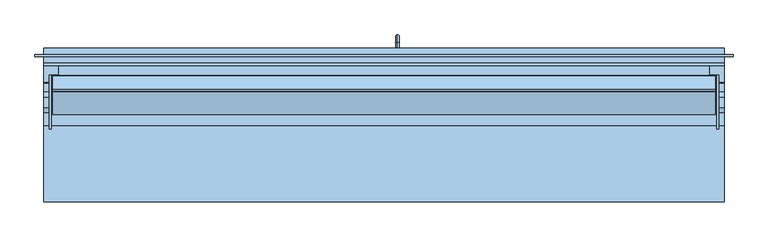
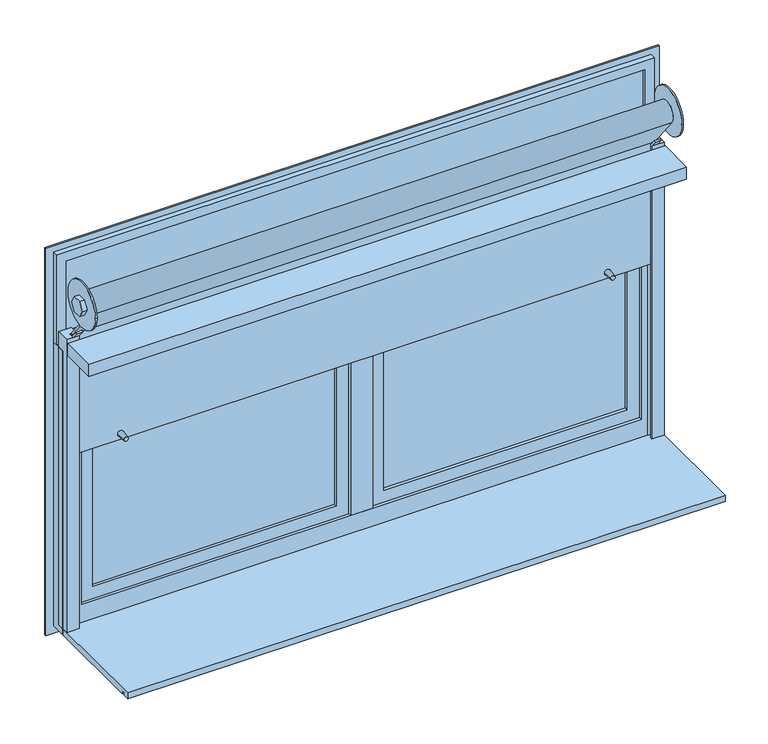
"""IFC4 building model written with IfcOpenShell, lengths in millimetres: window geometry, Ventana monoblock practicable, 2 hojas sin cajon para poner emparchado : CA-05. COCINA - DORMITORIOS NORTE."""

from ifc_helpers import new_model, si_unit, point, frame, frame_2d, origin, place, context, project, spatial, polyline, circle_curve, ellipse_curve, trimmed, segment, composite_curve, outline, extrude, faceted_brep, source, transform, mapped, element, save
from ifc_brep_helpers import plane_surface, cylinder_surface, revolved_surface, advanced_brep


def window_7e7f52a2(model_context):
    return source(origin(), model_context, "Body", "SolidModel", [
        extrude(outline(polyline([(930.0, 120.0), (-930.0, 120.0), (-930.0, 135.0), (930.0, 135.0), (930.0, 120.0)])), frame((0.0, 0.0, 1865.0), z_axis=(0.0, 0.0, 1.0), x_axis=(1.0, 0.0, 0.0)), (0.0, 0.0, 1.0), 270.0),
        faceted_brep([(-945.0, 110.0, 2150.0), (945.0, 110.0, 2150.0), (945.0, 150.0, 2150.0), (-945.0, 150.0, 2150.0), (-915.0, 120.0, 2120.0), (915.0, 120.0, 2120.0), (915.0, 110.0, 2120.0), (-915.0, 110.0, 2120.0), (-930.0, 150.0, 2135.0), (930.0, 150.0, 2135.0), (930.0, 120.0, 2135.0), (-930.0, 120.0, 2135.0), (945.0, 110.0, 1850.0), (945.0, 150.0, 1850.0), (915.0, 120.0, 1880.0), (915.0, 110.0, 1880.0), (930.0, 150.0, 1865.0), (930.0, 120.0, 1865.0), (-945.0, 110.0, 1850.0), (-945.0, 150.0, 1850.0), (-915.0, 120.0, 1880.0), (-915.0, 110.0, 1880.0), (-930.0, 150.0, 1865.0), (-930.0, 120.0, 1865.0)], [[[0, 1, 2, 3]], [[4, 5, 6, 7]], [[8, 9, 10, 11]], [[1, 12, 13, 2]], [[5, 14, 15, 6]], [[9, 16, 17, 10]], [[12, 18, 19, 13]], [[14, 20, 21, 15]], [[16, 22, 23, 17]], [[18, 0, 3, 19]], [[1, 0, 18, 12], [7, 6, 15, 21]], [[20, 4, 7, 21]], [[11, 10, 17, 23], [5, 4, 20, 14]], [[22, 8, 11, 23]], [[3, 2, 13, 19], [9, 8, 22, 16]]]),
        advanced_brep(
        [(-945.0, 28.8675135, 2045.0), (-945.0, 14.4337567, 2020.0), (-945.0, -14.4337567, 2020.0), (-945.0, -28.8675135, 2045.0), (-945.0, -14.4337567, 2070.0), (-945.0, 14.4337567, 2070.0), (945.0, 28.8675135, 2045.0), (945.0, 14.4337567, 2070.0), (945.0, -14.4337567, 2070.0), (945.0, -28.8675135, 2045.0), (945.0, -14.4337567, 2020.0), (945.0, 14.4337567, 2020.0), (930.0, 28.8675135, 2045.0), (930.0, 14.4337567, 2070.0), (925.0, 28.8675135, 2045.0), (-925.0, 28.8675135, 2045.0), (-925.0, 14.4337567, 2070.0), (925.0, 14.4337567, 2070.0), (-930.0, 14.4337567, 2070.0), (-930.0, 28.8675135, 2045.0), (930.0, -14.4337567, 2070.0), (-925.0, -14.4337567, 2070.0), (925.0, -14.4337567, 2070.0), (-930.0, -14.4337567, 2070.0), (930.0, -28.8675135, 2045.0), (-925.0, -28.8675135, 2045.0), (925.0, -28.8675135, 2045.0), (-930.0, -28.8675135, 2045.0), (930.0, -14.4337567, 2020.0), (-925.0, -14.4337567, 2020.0), (925.0, -14.4337567, 2020.0), (-930.0, -14.4337567, 2020.0), (930.0, 14.4337567, 2020.0), (-925.0, 14.4337567, 2020.0), (925.0, 14.4337567, 2020.0), (-930.0, 14.4337567, 2020.0), (925.0, 75.0, 2045.0), (925.0, -75.0, 2045.0), (930.0, 75.0, 2045.0), (930.0, -75.0, 2045.0), (-930.0, 75.0, 2045.0), (-930.0, -75.0, 2045.0), (-925.0, 75.0, 2045.0), (-925.0, -75.0, 2045.0)],
        [
            (0, 1),
            (1, 2),
            (2, 3),
            (3, 4),
            (4, 5),
            (5, 0),
            (6, 7),
            (7, 8),
            (8, 9),
            (9, 10),
            (10, 11),
            (11, 6),
            (6, 12),
            (12, 13),
            (13, 7),
            (14, 15),
            (15, 16),
            (16, 17),
            (17, 14),
            (5, 18),
            (18, 19),
            (19, 0),
            (13, 20),
            (20, 8),
            (16, 21),
            (21, 22),
            (22, 17),
            (4, 23),
            (23, 18),
            (20, 24),
            (24, 9),
            (21, 25),
            (25, 26),
            (26, 22),
            (3, 27),
            (27, 23),
            (24, 28),
            (28, 10),
            (25, 29),
            (29, 30),
            (30, 26),
            (2, 31),
            (31, 27),
            (28, 32),
            (32, 11),
            (29, 33),
            (33, 34),
            (34, 30),
            (1, 35),
            (35, 31),
            (19, 35),
            (32, 12),
            (33, 15),
            (14, 34),
            (36, 37, circle_curve(frame((925.0, 0.0, 2045.0), z_axis=(-1.0, 0.0, 0.0), x_axis=(0.0, -1.0, 0.0)), 75.0)),
            (37, 36, circle_curve(frame((925.0, 0.0, 2045.0), z_axis=(-1.0, 0.0, 0.0), x_axis=(0.0, -1.0, 0.0)), 75.0)),
            (38, 39, circle_curve(frame((930.0, 0.0, 2045.0), z_axis=(1.0, 0.0, 0.0), x_axis=(0.0, -1.0, 0.0)), 75.0)),
            (39, 38, circle_curve(frame((930.0, 0.0, 2045.0), z_axis=(1.0, 0.0, 0.0), x_axis=(0.0, -1.0, 0.0)), 75.0)),
            (36, 38),
            (39, 37),
            (40, 41, circle_curve(frame((-930.0, 0.0, 2045.0), z_axis=(-1.0, 0.0, 0.0), x_axis=(0.0, -1.0, 0.0)), 75.0)),
            (41, 40, circle_curve(frame((-930.0, 0.0, 2045.0), z_axis=(-1.0, 0.0, 0.0), x_axis=(0.0, -1.0, 0.0)), 75.0)),
            (42, 43, circle_curve(frame((-925.0, 0.0, 2045.0), z_axis=(1.0, 0.0, 0.0), x_axis=(0.0, -1.0, 0.0)), 75.0)),
            (43, 42, circle_curve(frame((-925.0, 0.0, 2045.0), z_axis=(1.0, 0.0, 0.0), x_axis=(0.0, -1.0, 0.0)), 75.0)),
            (40, 42),
            (43, 41),
        ],
        [
            plane_surface(frame((-945.0, 28.8675135, 2045.0), z_axis=(-1.0, 0.0, 0.0), x_axis=(0.0, -0.4999999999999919, 0.8660254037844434))),
            plane_surface(frame((945.0, 28.8675135, 2045.0), z_axis=(1.0, 0.0, 0.0), x_axis=(0.0, 0.4999999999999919, -0.8660254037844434))),
            plane_surface(frame((-945.0, 28.8675135, 2045.0), z_axis=(0.0, 0.8660254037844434, 0.4999999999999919), x_axis=(1.0, 0.0, 0.0))),
            plane_surface(frame((-945.0, 14.4337567, 2070.0), z_axis=(0.0, 0.0, 1.0), x_axis=(1.0, 0.0, 0.0))),
            plane_surface(frame((-945.0, -14.4337567, 2070.0), z_axis=(0.0, -0.8660254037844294, 0.5000000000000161), x_axis=(1.0, 0.0, 0.0))),
            plane_surface(frame((-945.0, -28.8675135, 2045.0), z_axis=(0.0, -0.8660254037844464, -0.49999999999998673), x_axis=(1.0, 0.0, 0.0))),
            plane_surface(frame((-945.0, -14.4337567, 2020.0), z_axis=(0.0, 0.0, -1.0), x_axis=(1.0, 0.0, 0.0))),
            plane_surface(frame((-945.0, 14.4337567, 2020.0), z_axis=(0.0, 0.8660254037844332, -0.5000000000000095), x_axis=(1.0, 0.0, 0.0))),
            plane_surface(frame((925.0, -75.0, 2045.0), z_axis=(-1.0, 0.0, 0.0), x_axis=(0.0, 0.0, -1.0))),
            plane_surface(frame((930.0, -75.0, 2045.0), z_axis=(1.0, 0.0, 0.0), x_axis=(0.0, 0.0, 1.0))),
            cylinder_surface(frame((925.0, 0.0, 2045.0), z_axis=(1.0, 0.0, 0.0), x_axis=(0.0, -1.0, 0.0)), 75.0),
            plane_surface(frame((-930.0, -75.0, 2045.0), z_axis=(-1.0, 0.0, 0.0), x_axis=(0.0, 0.0, -1.0))),
            plane_surface(frame((-925.0, -75.0, 2045.0), z_axis=(1.0, 0.0, 0.0), x_axis=(0.0, 0.0, 1.0))),
            cylinder_surface(frame((-930.0, 0.0, 2045.0), z_axis=(1.0, 0.0, 0.0), x_axis=(0.0, -1.0, 0.0)), 75.0),
        ],
        [
            (0, [[1, 2, 3, 4, 5, 6]]),
            (1, [[7, 8, 9, 10, 11, 12]]),
            (2, [[13, 14, 15, -7]]),
            (2, [[16, 17, 18, 19]]),
            (2, [[20, 21, 22, -6]]),
            (3, [[-15, 23, 24, -8]]),
            (3, [[-18, 25, 26, 27]]),
            (3, [[28, 29, -20, -5]]),
            (4, [[-24, 30, 31, -9]]),
            (4, [[-26, 32, 33, 34]]),
            (4, [[35, 36, -28, -4]]),
            (5, [[-31, 37, 38, -10]]),
            (5, [[-33, 39, 40, 41]]),
            (5, [[42, 43, -35, -3]]),
            (6, [[-38, 44, 45, -11]]),
            (6, [[-40, 46, 47, 48]]),
            (6, [[49, 50, -42, -2]]),
            (7, [[-22, 51, -49, -1]]),
            (7, [[-45, 52, -13, -12]]),
            (7, [[-47, 53, -16, 54]]),
            (8, [[55, 56], [-27, -34, -41, -48, -54, -19]]),
            (9, [[57, 58], [-52, -44, -37, -30, -23, -14]]),
            (10, [[59, -58, 60, -55]]),
            (10, [[-60, -57, -59, -56]]),
            (11, [[61, 62], [-29, -36, -43, -50, -51, -21]]),
            (12, [[63, 64], [-53, -46, -39, -32, -25, -17]]),
            (13, [[65, -64, 66, -61]]),
            (13, [[-66, -63, -65, -62]]),
        ],
    ),
        extrude(outline(composite_curve([segment(polyline([(-22.8709706, 2027.1697251), (72.0, 1905.4783214), (72.0, 1500.0), (66.0, 1500.0), (66.0, 1903.4158643), (-27.6028956, 2023.4807027)]), True, "CONTINUOUS"), segment(trimmed(circle_curve(frame_2d((0.0, 2045.0)), 35.0), [point((-27.6028956, 2023.4807027))], [point((0.0, 2010.0))], False, "CARTESIAN"), True, "CONTINUOUS"), segment(polyline([(0.0, 2010.0), (0.0, 2016.0)]), True, "CONTINUOUS"), segment(trimmed(circle_curve(frame_2d((0.0, 2045.0)), 29.0), [point((0.0, 2016.0))], [point((-22.8709706, 2027.1697251))], True, "CARTESIAN"), True, "CONTINUOUS")], self_intersect=False)), frame((-920.0, 0.0, 0.0), z_axis=(1.0, 0.0, 0.0), x_axis=(0.0, 1.0, 0.0)), (0.0, 0.0, 1.0), 1840.0),
        extrude(outline(polyline([(-945.0, 52.0), (945.0, 52.0), (945.0, -65.0), (-945.0, -65.0), (-945.0, 52.0)])), frame((0.0, 0.0, 1850.0), z_axis=(0.0, 0.0, 1.0), x_axis=(1.0, 0.0, 0.0)), (0.0, 0.0, 1.0), 40.0),
        extrude(outline(polyline([(905.0, 75.0), (-905.0, 75.0), (-905.0, 100.0), (905.0, 100.0), (905.0, 75.0)])), frame((0.0, 0.0, 1840.0), z_axis=(0.0, 0.0, 1.0), x_axis=(1.0, 0.0, 0.0)), (0.0, 0.0, 1.0), 10.0),
        faceted_brep([(-925.0, 77.0, 920.0), (-925.0, 61.0, 920.0), (-905.0, 61.0, 920.0), (-905.0, 56.0, 920.0), (-945.0, 56.0, 920.0), (-945.0, 100.0, 920.0), (-905.0, 100.0, 920.0), (-905.0, 77.0, 920.0), (-925.0, 77.0, 1900.0), (-905.0, 77.0, 1900.0), (-905.0, 100.0, 1900.0), (-945.0, 100.0, 1900.0), (-945.0, 56.0, 1900.0), (-905.0, 56.0, 1900.0), (-925.0, 56.0, 1900.0), (-905.0, 61.0, 1901.7190332), (-905.0, 41.4951086, 1926.7321553), (-905.0, 37.5521886, 1923.65752), (-925.0, 61.0, 1900.0), (-925.0, 61.0, 1901.7190332), (-925.0, 37.5521886, 1923.65752), (-925.0, 41.4951086, 1926.7321553)], [[[0, 1, 2, 3, 4, 5, 6, 7]], [[8, 0, 7, 9]], [[9, 7, 6, 10]], [[10, 6, 5, 11]], [[11, 5, 4, 12]], [[12, 4, 3, 13, 14]], [[2, 15, 16, 17, 13, 3]], [[1, 18, 19, 15, 2]], [[8, 18, 1, 0]], [[14, 18, 8, 9, 10, 11, 12]], [[19, 18, 14, 20, 21]], [[16, 21, 20, 17]], [[15, 19, 21, 16]], [[17, 20, 14, 13]]]),
        faceted_brep([(945.0, 56.0, 920.0), (905.0, 56.0, 920.0), (905.0, 61.0, 920.0), (925.0, 61.0, 920.0), (925.0, 77.0, 920.0), (905.0, 77.0, 920.0), (905.0, 100.0, 920.0), (945.0, 100.0, 920.0), (945.0, 56.0, 1900.0), (945.0, 100.0, 1900.0), (905.0, 100.0, 1900.0), (905.0, 77.0, 1900.0), (925.0, 77.0, 1900.0), (925.0, 61.0, 1900.0), (905.0, 61.0, 1901.7190332), (925.0, 61.0, 1901.7190332), (905.0, 56.0, 1900.0), (905.0, 37.5521886, 1923.65752), (905.0, 41.4951086, 1926.7321553), (925.0, 56.0, 1900.0), (925.0, 41.4951086, 1926.7321553), (925.0, 37.5521886, 1923.65752)], [[[0, 1, 2, 3, 4, 5, 6, 7]], [[8, 0, 7, 9]], [[9, 7, 6, 10]], [[10, 6, 5, 11]], [[11, 5, 4, 12]], [[4, 3, 13, 12]], [[2, 14, 15, 13, 3]], [[1, 16, 17, 18, 14, 2]], [[19, 16, 1, 0, 8]], [[12, 13, 19, 8, 9, 10, 11]], [[19, 13, 15, 20, 21]], [[20, 18, 17, 21]], [[15, 14, 18, 20]], [[21, 17, 16, 19]]]),
        advanced_brep(
        [(-763.0, 34.0, 1520.0), (-777.0, 34.0, 1520.0), (-760.5, 66.0, 1520.0), (-779.5, 66.0, 1520.0)],
        [
            (0, 1, circle_curve(frame((-770.0, 34.0, 1520.0), z_axis=(0.0, -1.0, 0.0), x_axis=(-1.0, 0.0, 0.0)), 7.0)),
            (1, 0, circle_curve(frame((-770.0, 34.0, 1520.0), z_axis=(0.0, -1.0, 0.0), x_axis=(1.0, 0.0, 0.0)), 7.0)),
            (2, 3, circle_curve(frame((-770.0, 66.0, 1520.0), z_axis=(0.0, 1.0, 0.0), x_axis=(1.0, 0.0, 0.0)), 9.5)),
            (3, 2, circle_curve(frame((-770.0, 66.0, 1520.0), z_axis=(0.0, 1.0, 0.0), x_axis=(-1.0, 0.0, 0.0)), 9.5)),
            (2, 0),
            (1, 3),
        ],
        [
            plane_surface(frame((-770.0, 34.0, 1520.0), z_axis=(0.0, -1.0, 0.0), x_axis=(0.0, 0.0, 1.0))),
            plane_surface(frame((-770.0, 66.0, 1520.0), z_axis=(0.0, 1.0, 0.0), x_axis=(0.0, 0.0, 1.0))),
            revolved_surface(polyline([(-763.0, 33.99999999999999, 1520.0), (-760.5, 66.0, 1520.0)]), (-770.0, -55.6, 1520.0), (0.0, 1.0, 0.0)),
            revolved_surface(polyline([(-777.0, 33.99999999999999, 1520.0), (-779.5, 66.0, 1520.0)]), (-770.0, -55.6, 1520.0), (0.0, 1.0, 0.0)),
        ],
        [
            (0, [[1, 2]]),
            (1, [[3, 4]]),
            (2, [[5, -2, 6, -3]]),
            (3, [[-6, -1, -5, -4]]),
        ],
    ),
        advanced_brep(
        [(763.0, 34.0, 1520.0), (777.0, 34.0, 1520.0), (760.5, 66.0, 1520.0), (779.5, 66.0, 1520.0)],
        [
            (0, 1, circle_curve(frame((770.0, 34.0, 1520.0), z_axis=(0.0, -1.0, 0.0), x_axis=(1.0, 0.0, 0.0)), 7.0)),
            (1, 0, circle_curve(frame((770.0, 34.0, 1520.0), z_axis=(0.0, -1.0, 0.0), x_axis=(-1.0, 0.0, 0.0)), 7.0)),
            (2, 3, circle_curve(frame((770.0, 66.0, 1520.0), z_axis=(0.0, 1.0, 0.0), x_axis=(-1.0, 0.0, 0.0)), 9.5)),
            (3, 2, circle_curve(frame((770.0, 66.0, 1520.0), z_axis=(0.0, 1.0, 0.0), x_axis=(1.0, 0.0, 0.0)), 9.5)),
            (3, 1),
            (0, 2),
        ],
        [
            plane_surface(frame((770.0, 34.0, 1520.0), z_axis=(0.0, -1.0, 0.0), x_axis=(0.0, 0.0, -1.0))),
            plane_surface(frame((770.0, 66.0, 1520.0), z_axis=(0.0, 1.0, 0.0), x_axis=(0.0, 0.0, -1.0))),
            revolved_surface(polyline([(777.0, 33.99999999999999, 1520.0), (779.5, 66.0, 1520.0)]), (770.0, -55.6, 1520.0), (0.0, 1.0, 0.0)),
            revolved_surface(polyline([(763.0, 33.99999999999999, 1520.0), (760.5, 66.0, 1520.0)]), (770.0, -55.6, 1520.0), (0.0, 1.0, 0.0)),
        ],
        [
            (0, [[1, 2]]),
            (1, [[3, 4]]),
            (2, [[5, -1, 6, -4]]),
            (3, [[-6, -2, -5, -3]]),
        ],
    ),
        extrude(outline(polyline([(-277.5, 920.0), (77.5, 920.0), (77.5, 900.0), (-247.5, 900.0), (-247.5, 910.0), (-257.5, 910.0), (-257.5, 900.0), (-277.5, 900.0), (-277.5, 920.0)])), frame((-945.0, 0.0, 0.0), z_axis=(1.0, 0.0, 0.0), x_axis=(0.0, 1.0, 0.0)), (0.0, 0.0, 1.0), 1890.0),
        advanced_brep(
        [(37.5, 147.5, 1390.0), (37.5, 147.5, 1380.0), (37.5, 166.5, 1380.0), (37.5, 166.5, 1390.0), (37.5, 177.5, 1369.0), (37.5, 187.5, 1369.0), (37.5, 187.5, 1290.0), (37.5, 177.5, 1290.0), (52.5, 147.5, 1415.0), (52.5, 147.5, 1355.0), (22.5, 147.5, 1355.0), (22.5, 147.5, 1415.0), (52.5, 137.5, 1415.0), (22.5, 137.5, 1415.0), (22.5, 137.5, 1355.0), (52.5, 137.5, 1355.0)],
        [
            (0, 1, circle_curve(frame((37.5, 147.5, 1385.0), z_axis=(0.0, 1.0, 0.0), x_axis=(0.0, 0.0, -1.0)), 5.0)),
            (1, 2),
            (2, 3, circle_curve(frame((37.5, 166.5, 1385.0), z_axis=(0.0, -1.0, 0.0), x_axis=(0.0, 0.0, -1.0)), 5.0)),
            (3, 0),
            (3, 2, circle_curve(frame((37.5, 166.5, 1385.0), z_axis=(0.0, -1.0, 0.0), x_axis=(0.0, 0.0, -1.0)), 5.0)),
            (1, 0, circle_curve(frame((37.5, 147.5, 1385.0), z_axis=(0.0, 1.0, 0.0), x_axis=(0.0, 0.0, -1.0)), 5.0)),
            (2, 4, circle_curve(frame((37.5, 166.5, 1369.0), z_axis=(-1.0, 0.0, 0.0), x_axis=(0.0, 0.0, 1.0)), 11.0)),
            (4, 5, circle_curve(frame((37.5, 182.5, 1369.0), z_axis=(0.0, 0.0, 1.0), x_axis=(0.0, -1.0, 0.0)), 5.0)),
            (5, 3, circle_curve(frame((37.5, 166.5, 1369.0), z_axis=(1.0, 0.0, 0.0), x_axis=(0.0, 0.0, 1.0)), 21.0)),
            (5, 4, circle_curve(frame((37.5, 182.5, 1369.0), z_axis=(0.0, 0.0, 1.0), x_axis=(0.0, -1.0, 0.0)), 5.0)),
            (6, 7, circle_curve(frame((37.5, 182.5, 1290.0), z_axis=(0.0, 0.0, -1.0), x_axis=(0.0, -1.0, 0.0)), 5.0)),
            (7, 6, circle_curve(frame((37.5, 182.5, 1290.0), z_axis=(0.0, 0.0, -1.0), x_axis=(0.0, -1.0, 0.0)), 5.0)),
            (4, 7),
            (6, 5),
            (8, 9),
            (9, 10),
            (10, 11),
            (11, 8),
            (12, 13),
            (13, 14),
            (14, 15),
            (15, 12),
            (11, 13),
            (12, 8),
            (10, 14),
            (9, 15),
        ],
        [
            cylinder_surface(frame((37.5, 147.5, 1385.0), z_axis=(0.0, -1.0, 0.0), x_axis=(0.0, 0.0, -1.0)), 5.0),
            revolved_surface(trimmed(ellipse_curve(frame((37.5, 166.5, 1385.0), z_axis=(0.0, 1.0, 0.0), x_axis=(0.0, 0.0, -1.0)), 5.0, 5.0), [point((37.5, 166.5, 1390.0))], [point((37.5, 166.5, 1380.0))], True, "CARTESIAN"), (37.5, 166.5, 1369.0), (1.0, 0.0, 0.0)),
            revolved_surface(trimmed(ellipse_curve(frame((37.5, 166.5, 1385.0), z_axis=(0.0, 1.0, 0.0), x_axis=(0.0, 0.0, -1.0)), 5.0, 5.0), [point((37.5, 166.5, 1380.0))], [point((37.5, 166.5, 1390.0))], True, "CARTESIAN"), (37.5, 166.5, 1369.0), (1.0, 0.0, 0.0)),
            plane_surface(frame((37.5, 182.5, 1290.0), z_axis=(0.0, 0.0, -1.0), x_axis=(1.0, 0.0, 0.0))),
            cylinder_surface(frame((37.5, 182.5, 1369.0), z_axis=(0.0, 0.0, 1.0), x_axis=(0.0, -1.0, 0.0)), 5.0),
            plane_surface(frame((22.5, 147.5, 1415.0), z_axis=(0.0, 1.0, 0.0), x_axis=(-1.0, 0.0, 0.0))),
            plane_surface(frame((22.5, 137.5, 1415.0), z_axis=(0.0, -1.0, 0.0), x_axis=(1.0, 0.0, 0.0))),
            plane_surface(frame((52.5, 147.5, 1415.0), z_axis=(0.0, 0.0, 1.0), x_axis=(0.0, -1.0, 0.0))),
            plane_surface(frame((22.5, 147.5, 1415.0), z_axis=(-1.0, 0.0, 0.0), x_axis=(0.0, -1.0, 0.0))),
            plane_surface(frame((22.5, 147.5, 1355.0), z_axis=(0.0, 0.0, -1.0), x_axis=(0.0, -1.0, 0.0))),
            plane_surface(frame((52.5, 147.5, 1355.0), z_axis=(1.0, 0.0, 0.0), x_axis=(0.0, -1.0, 0.0))),
        ],
        [
            (0, [[1, 2, 3, 4]]),
            (0, [[5, -2, 6, -4]]),
            (1, [[7, 8, 9, -3]]),
            (2, [[-9, 10, -7, -5]]),
            (3, [[11, 12]]),
            (4, [[13, -11, 14, -8]]),
            (4, [[-14, -12, -13, -10]]),
            (5, [[15, 16, 17, 18], [-6, -1]]),
            (6, [[19, 20, 21, 22]]),
            (7, [[23, -19, 24, -18]]),
            (8, [[25, -20, -23, -17]]),
            (9, [[26, -21, -25, -16]]),
            (10, [[-24, -22, -26, -15]]),
        ],
    ),
        faceted_brep([(945.0, 77.5, 1850.0), (945.0, 77.5, 900.0), (945.0, 127.5, 900.0), (945.0, 127.5, 1850.0), (-945.0, 127.5, 900.0), (-945.0, 127.5, 1850.0), (910.0, 127.5, 1815.0), (-910.0, 127.5, 1815.0), (-910.0, 127.5, 955.0), (910.0, 127.5, 955.0), (-945.0, 77.5, 900.0), (-945.0, 77.5, 1850.0), (885.0, 77.5, 980.0), (-885.0, 77.5, 980.0), (-885.0, 77.5, 1790.0), (885.0, 77.5, 1790.0), (885.0, 87.5, 1790.0), (885.0, 87.5, 980.0), (-885.0, 87.5, 980.0), (910.0, 87.5, 955.0), (-910.0, 87.5, 955.0), (-910.0, 87.5, 1815.0), (910.0, 87.5, 1815.0), (-885.0, 87.5, 1790.0)], [[[0, 1, 2, 3]], [[2, 4, 5, 3], [6, 7, 8, 9]], [[1, 10, 4, 2]], [[0, 11, 10, 1], [12, 13, 14, 15]], [[16, 17, 12, 15]], [[17, 18, 13, 12]], [[19, 20, 21, 22], [16, 23, 18, 17]], [[6, 9, 19, 22]], [[9, 8, 20, 19]], [[18, 23, 14, 13]], [[8, 7, 21, 20]], [[5, 4, 10, 11]], [[3, 5, 11, 0]], [[15, 14, 23, 16]], [[22, 21, 7, 6]]]),
        faceted_brep([(-25.0, 87.5, 980.0), (10.0, 87.5, 980.0), (35.0, 87.5, 980.0), (35.0, 77.5, 980.0), (-35.0, 77.5, 980.0), (-35.0, 87.5, 980.0), (-35.0, 87.5, 1790.0), (-25.0, 87.5, 1790.0), (-35.0, 77.5, 1790.0), (35.0, 77.5, 1790.0), (35.0, 87.5, 1790.0), (10.0, 87.5, 1790.0), (-25.0, 87.5, 955.0), (10.0, 87.5, 955.0), (-62.5, 87.5, 1790.0), (-35.0, 87.5, 1790.0), (10.0, 87.5, 1815.0), (-62.5, 87.5, 1815.0), (-25.0, 127.5, 955.0), (-25.0, 127.5, 1790.0), (10.0, 127.5, 1815.0), (10.0, 127.5, 955.0), (-62.5, 127.5, 1790.0), (-62.5, 127.5, 1815.0)], [[[0, 1, 2, 3, 4, 5]], [[5, 6, 7, 0]], [[4, 8, 6, 5]], [[3, 9, 8, 4]], [[2, 10, 9, 3]], [[1, 11, 10, 2]], [[1, 0, 12, 13]], [[14, 15, 7, 11, 16, 17]], [[18, 12, 0, 7, 19]], [[20, 21, 18, 19, 22, 23]], [[21, 13, 12, 18]], [[20, 16, 11, 1, 13, 21]], [[11, 7, 6, 8, 9, 10]], [[23, 17, 16, 20]], [[22, 14, 17, 23]], [[22, 19, 7, 15, 14]]]),
        extrude(outline(polyline([(-60.0, 97.5), (-860.0, 97.5), (-860.0, 111.5), (-60.0, 111.5), (-60.0, 97.5)])), frame((0.0, 0.0, 1005.0), z_axis=(0.0, 0.0, 1.0), x_axis=(1.0, 0.0, 0.0)), (0.0, 0.0, 1.0), 760.0),
        extrude(outline(polyline([(860.0, 97.5), (60.0, 97.5), (60.0, 111.5), (860.0, 111.5), (860.0, 97.5)])), frame((0.0, 0.0, 1005.0), z_axis=(0.0, 0.0, 1.0), x_axis=(1.0, 0.0, 0.0)), (0.0, 0.0, 1.0), 760.0),
        faceted_brep([(-75.0, 97.5, 1750.0), (-75.0, 97.5, 1020.0), (-75.0, 87.5, 1020.0), (-75.0, 87.5, 1750.0), (-25.0, 87.5, 1800.0), (-895.0, 87.5, 1800.0), (-895.0, 87.5, 970.0), (-25.0, 87.5, 970.0), (-845.0, 87.5, 1750.0), (-845.0, 87.5, 1020.0), (-845.0, 97.5, 1020.0), (-870.0, 97.5, 1775.0), (-50.0, 97.5, 1775.0), (-50.0, 97.5, 995.0), (-870.0, 97.5, 995.0), (-845.0, 97.5, 1750.0), (-50.0, 137.5, 1775.0), (-50.0, 137.5, 995.0), (-870.0, 137.5, 995.0), (-920.0, 137.5, 1825.0), (0.0, 137.5, 1825.0), (0.0, 137.5, 945.0), (-920.0, 137.5, 945.0), (-870.0, 137.5, 1775.0), (0.0, 127.5, 1825.0), (0.0, 127.5, 945.0), (-920.0, 127.5, 945.0), (-920.0, 127.5, 1825.0), (-895.0, 127.5, 1800.0), (-25.0, 127.5, 1800.0), (-25.0, 127.5, 970.0), (-895.0, 127.5, 970.0)], [[[0, 1, 2, 3]], [[4, 5, 6, 7], [8, 3, 2, 9]], [[1, 10, 9, 2]], [[11, 12, 13, 14], [0, 15, 10, 1]], [[16, 17, 13, 12]], [[17, 18, 14, 13]], [[19, 20, 21, 22], [16, 23, 18, 17]], [[24, 25, 21, 20]], [[25, 26, 22, 21]], [[24, 27, 26, 25], [28, 29, 30, 31]], [[4, 7, 30, 29]], [[7, 6, 31, 30]], [[10, 15, 8, 9]], [[18, 23, 11, 14]], [[26, 27, 19, 22]], [[6, 5, 28, 31]], [[15, 0, 3, 8]], [[23, 16, 12, 11]], [[27, 24, 20, 19]], [[5, 4, 29, 28]]]),
        extrude(outline(polyline([(1775.0, -50.0), (1775.0, -870.0), (995.0, -870.0), (995.0, -50.0), (1775.0, -50.0)]), holes=[polyline([(1750.0, -845.0), (1750.0, -75.0), (1020.0, -75.0), (1020.0, -845.0), (1750.0, -845.0)])]), frame((0.0, 111.5, 0.0), z_axis=(0.0, 1.0, 0.0), x_axis=(0.0, 0.0, 1.0)), (0.0, 0.0, 1.0), 26.0),
        extrude(outline(polyline([(1775.0, 870.0), (1775.0, 50.0), (995.0, 50.0), (995.0, 870.0), (1775.0, 870.0)]), holes=[polyline([(1750.0, 75.0), (1750.0, 845.0), (1020.0, 845.0), (1020.0, 75.0), (1750.0, 75.0)])]), frame((0.0, 111.5, 0.0), z_axis=(0.0, 1.0, 0.0), x_axis=(0.0, 0.0, 1.0)), (0.0, 0.0, 1.0), 26.0),
        faceted_brep([(25.0, 127.5, 1800.0), (25.0, 127.5, 970.0), (25.0, 87.5, 970.0), (25.0, 87.5, 1800.0), (895.0, 87.5, 1800.0), (895.0, 87.5, 970.0), (75.0, 87.5, 1750.0), (845.0, 87.5, 1750.0), (845.0, 87.5, 1020.0), (75.0, 87.5, 1020.0), (895.0, 127.5, 970.0), (920.0, 127.5, 1825.0), (0.0, 127.5, 1825.0), (0.0, 127.5, 945.0), (920.0, 127.5, 945.0), (895.0, 127.5, 1800.0), (0.0, 137.5, 1825.0), (0.0, 137.5, 945.0), (920.0, 137.5, 945.0), (920.0, 137.5, 1825.0), (870.0, 137.5, 1775.0), (50.0, 137.5, 1775.0), (50.0, 137.5, 995.0), (870.0, 137.5, 995.0), (75.0, 97.5, 1020.0), (75.0, 97.5, 1750.0), (50.0, 97.5, 1775.0), (870.0, 97.5, 1775.0), (870.0, 97.5, 995.0), (50.0, 97.5, 995.0), (845.0, 97.5, 1750.0), (845.0, 97.5, 1020.0)], [[[0, 1, 2, 3]], [[4, 3, 2, 5], [6, 7, 8, 9]], [[1, 10, 5, 2]], [[11, 12, 13, 14], [0, 15, 10, 1]], [[16, 17, 13, 12]], [[17, 18, 14, 13]], [[16, 19, 18, 17], [20, 21, 22, 23]], [[6, 9, 24, 25]], [[26, 27, 28, 29], [30, 25, 24, 31]], [[9, 8, 31, 24]], [[10, 15, 4, 5]], [[18, 19, 11, 14]], [[8, 7, 30, 31]], [[28, 27, 20, 23]], [[29, 28, 23, 22]], [[26, 29, 22, 21]], [[15, 0, 3, 4]], [[19, 16, 12, 11]], [[7, 6, 25, 30]], [[27, 26, 21, 20]]]),
        extrude(outline(polyline([(2170.0, -970.0), (875.0, -970.0), (875.0, 970.0), (2170.0, 970.0), (2170.0, -970.0)]), holes=[polyline([(910.0, 935.0), (910.0, -935.0), (1830.0, -935.0), (1830.0, 935.0), (910.0, 935.0)]), polyline([(2135.0, 935.0), (1865.0, 935.0), (1865.0, -935.0), (2135.0, -935.0), (2135.0, 935.0)])]), frame((0.0, 127.5, 0.0), z_axis=(0.0, 1.0, 0.0), x_axis=(0.0, 0.0, 1.0)), (0.0, 0.0, 1.0), 5.0),
    ])


if __name__ == "__main__":
    model = new_model("IFC4")
    model_context = context("Model", 3, world=origin())
    ifc_project = project(units=[si_unit("LENGTHUNIT", "METRE", prefix="MILLI")], contexts=[model_context])
    site = spatial("IfcSite", under=ifc_project)
    building = spatial("IfcBuilding", under=site)
    placement = place(None, origin())
    window_shape = window_7e7f52a2(model_context)
    element("IfcWindow", 1, ObjectType="Ventana monoblock practicable, 2 hojas sin cajon para poner emparchado : CA-05. COCINA - DORMITORIOS NORTE", at=placement, inside=building, context=model_context, shape_type="MappedRepresentation", body=[
        mapped(window_shape, transform((0.0, 0.0, 0.0), x_axis=(1.0, 0.0, 0.0), y_axis=(0.0, 1.0, 0.0), z_axis=(0.0, 0.0, 1.0))),
    ])
    save(model, "model.ifc")
